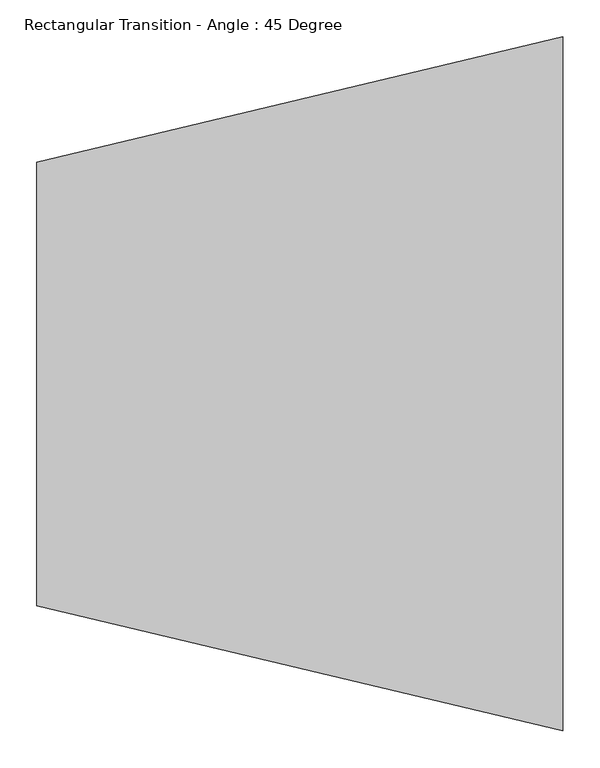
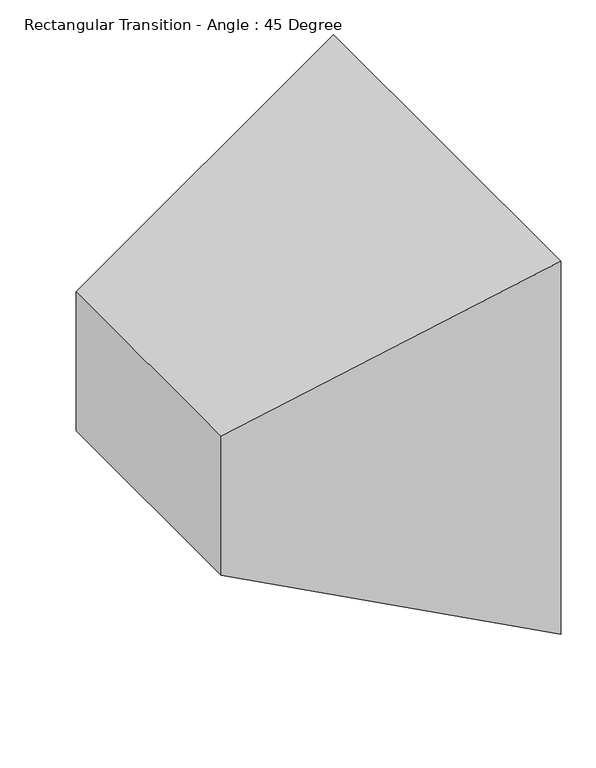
"""IFC4 building model written with IfcOpenShell, lengths in millimetres: duct fitting geometry, Rectangular Transition - Angle : 45 Degree."""

from ifc_helpers import new_model, si_unit, origin, place, context, project, spatial, faceted_brep, source, transform, mapped, element, save


def rectangular_transition_angle_45_degree_a284f36b(model_context):
    return source(origin(), model_context, "Body", "Brep", [
        faceted_brep([(711.9515795, -469.9, 469.9), (711.9515795, -469.9, -469.9), (711.9515795, 469.9, -469.9), (711.9515795, 469.9, 469.9), (0.0, -300.0, 175.0), (0.0, 300.0, 175.0), (0.0, 300.0, -175.0), (0.0, -300.0, -175.0)], [[[0, 1, 2, 3]], [[4, 5, 6, 7]], [[4, 7, 1, 0]], [[7, 6, 2, 1]], [[6, 5, 3, 2]], [[5, 4, 0, 3]]]),
    ])


if __name__ == "__main__":
    model = new_model("IFC4")
    model_context = context("Model", 3, world=origin())
    ifc_project = project(units=[si_unit("LENGTHUNIT", "METRE", prefix="MILLI")], contexts=[model_context])
    site = spatial("IfcSite", under=ifc_project)
    building = spatial("IfcBuilding", under=site)
    placement = place(None, origin())
    rectangular_transition_angle_45_degree_shape = rectangular_transition_angle_45_degree_a284f36b(model_context)
    element("IfcDuctFitting", 1, ObjectType="Rectangular Transition - Angle : 45 Degree", at=placement, inside=building, context=model_context, shape_type="MappedRepresentation", body=[
        mapped(rectangular_transition_angle_45_degree_shape, transform((0.0, 0.0, 0.0), x_axis=(1.0, 0.0, 0.0), y_axis=(0.0, 1.0, 0.0), z_axis=(0.0, 0.0, 1.0))),
    ])
    save(model, "model.ifc")
